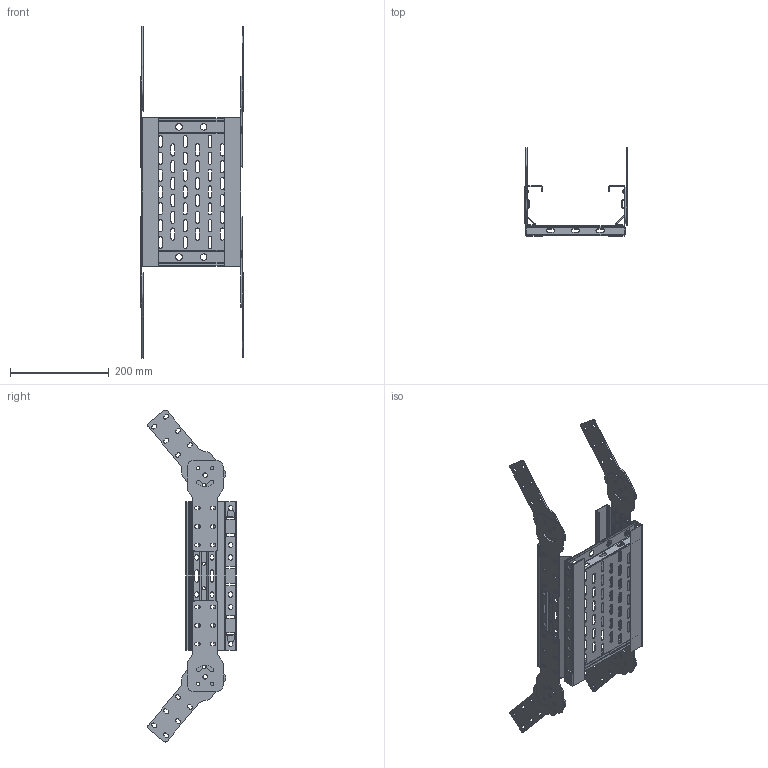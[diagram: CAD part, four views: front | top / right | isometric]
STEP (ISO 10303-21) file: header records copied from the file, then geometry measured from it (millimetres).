
FILE_DESCRIPTION (( 'STEP AP203' ), '1' );
FILE_NAME ('USF.STEP', '2015-06-08T06:09:31', ( '' ), ( '' ), 'SwSTEP 2.0', 'SolidWorks 2014', '' );
FILE_SCHEMA (( 'CONFIG_CONTROL_DESIGN' ));
Length unit declared in the file: millimetre
Products named in the file (9): 100õ2,5; ñîåäåíèòåëè øàðíèðíûå 100; Çåðêàëüíî îòðàçèòü100õ2,5; Çåðêàëüíî îòðàçèòüñîåäåíèòåëè øàðíèðíûå 100; Çåðêàëüíî îòðàçèòü100õ2,51; Çåðêàëüíî îòðàçèòüñîåäåíèòåëè øàðíèðíûå 1001; USF; 鋋翲歑鍙 34mm H100_300; Piastrella 300....new_200 1,0mm
Assembly tree (13 placements, depth 3):
  USF
    鋋翲歑鍙 34mm H100_300  x2
    Piastrella 300....new_200 1,0mm
    ñîåäåíèòåëè øàðíèðíûå 100  x2
      100õ2,5
    Çåðêàëüíî îòðàçèòüñîåäåíèòåëè øàðíèðíûå 100
      Çåðêàëüíî îòðàçèòü100õ2,5  x2
    Çåðêàëüíî îòðàçèòüñîåäåíèòåëè øàðíèðíûå 1001
      Çåðêàëüíî îòðàçèòü100õ2,51  x2
Bounding box: 207.5 x 179.06 x 671.04 mm (x, y, z)
Volume: 433654 mm3; surface area: 540593.1 mm2
Topology: 11 solids, 11 shells, 1306 faces, 3556 edges, 2272 vertices
Faces by surface type: plane 672, cylinder 634
Entity records: 25747 total; most frequent: DIRECTION 4382, CARTESIAN_POINT 4197, ORIENTED_EDGE 4168, EDGE_CURVE 2084, AXIS2_PLACEMENT_3D 1509, VECTOR 1364, LINE 1364, VERTEX_POINT 1324
